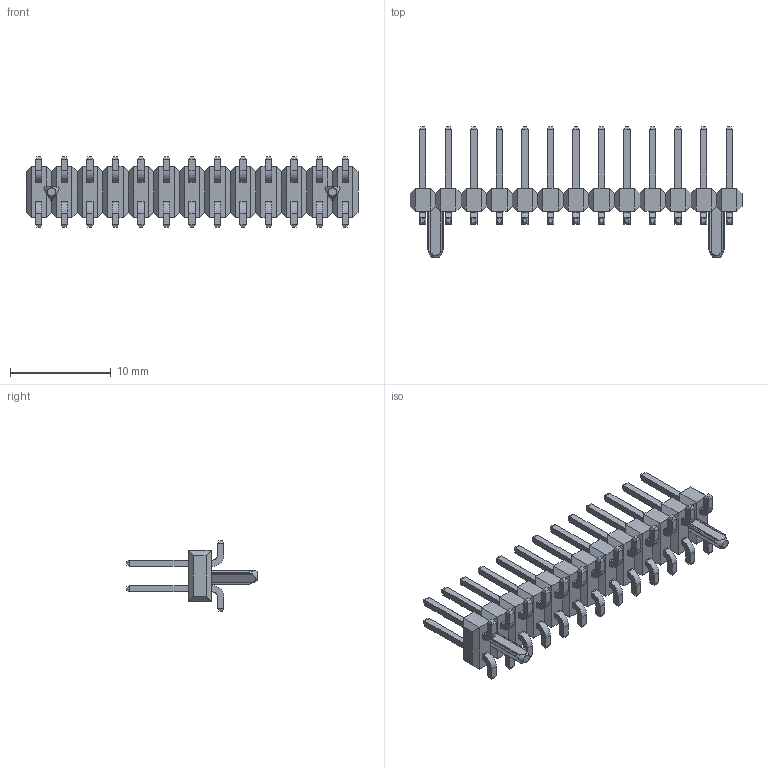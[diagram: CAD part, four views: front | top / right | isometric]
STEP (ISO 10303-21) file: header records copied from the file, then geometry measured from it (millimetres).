
FILE_DESCRIPTION((''),'2;1');
FILE_NAME('713086426','2018-12-12T',('gga'),(''),'PRO/ENGINEER BY PARAMETRIC TECHNOLOGY CORPORATION, 2016010','PRO/ENGINEER BY PARAMETRIC TECHNOLOGY CORPORATION, 2016010','');
FILE_SCHEMA(('CONFIG_CONTROL_DESIGN'));
Length unit declared in the file: millimetre
Products named in the file (1): 713086426
Bounding box: 33.02 x 12.96 x 6.99 mm (x, y, z)
Volume: 442 mm3; surface area: 1153.2 mm2
Topology: 1 solids, 1 shells, 776 faces, 1920 edges, 1200 vertices
Faces by surface type: plane 702, cylinder 70, cone 4
Entity records: 22060 total; most frequent: CARTESIAN_POINT 3886, ORIENTED_EDGE 3604, DIRECTION 3582, EDGE_CURVE 1802, VECTOR 1748, LINE 1748, VERTEX_POINT 1080, AXIS2_PLACEMENT_3D 917
